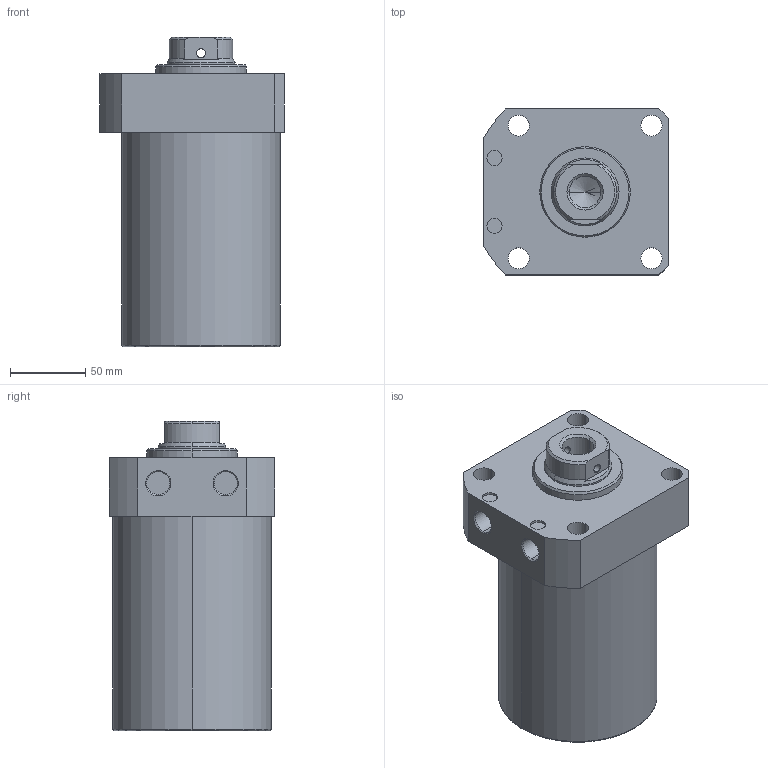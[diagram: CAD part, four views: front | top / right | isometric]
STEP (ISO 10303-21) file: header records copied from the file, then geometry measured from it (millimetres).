
FILE_DESCRIPTION (( 'STEP AP203' ), '1' );
FILE_NAME ('CLLR-105CB-095.STEP', '2019-12-18T07:27:53', ( '' ), ( '' ), 'SwSTEP 2.0', 'SolidWorks 2015', '' );
FILE_SCHEMA (( 'CONFIG_CONTROL_DESIGN' ));
Length unit declared in the file: millimetre
Products named in the file (1): CLLR-105CB-095
Bounding box: 122 x 110 x 205 mm (x, y, z)
Volume: 1726308.3 mm3; surface area: 105603.7 mm2
Topology: 1 solids, 1 shells, 69 faces, 165 edges, 104 vertices
Faces by surface type: cylinder 33, plane 19, cone 15, torus 2
Entity records: 2227 total; most frequent: CARTESIAN_POINT 481, DIRECTION 372, ORIENTED_EDGE 326, EDGE_CURVE 163, AXIS2_PLACEMENT_3D 151, VERTEX_POINT 104, EDGE_LOOP 89, CIRCLE 81
